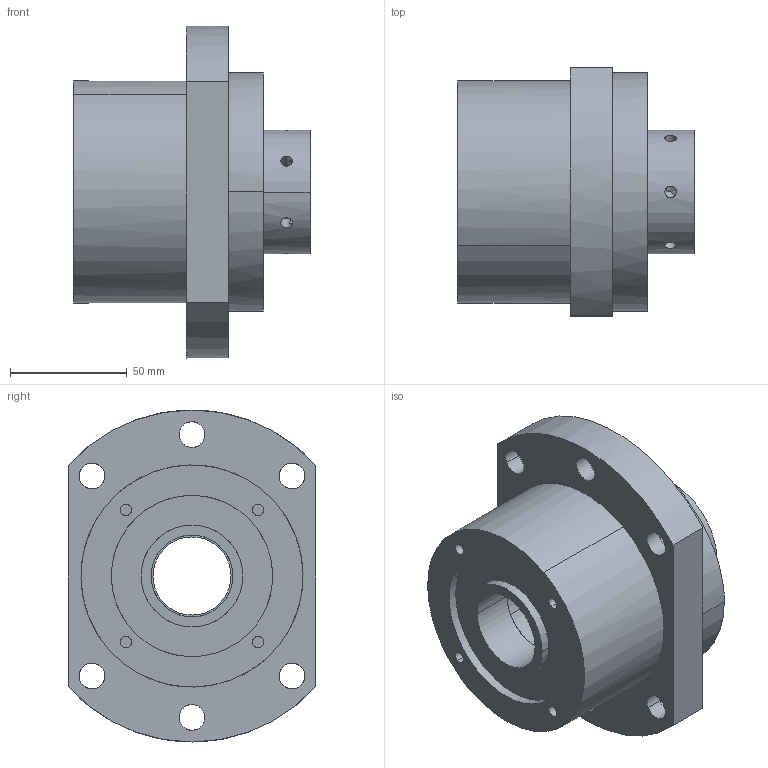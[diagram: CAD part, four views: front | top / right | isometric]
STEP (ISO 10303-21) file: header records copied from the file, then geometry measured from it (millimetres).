
FILE_DESCRIPTION(('CATIA V5 STEP Exchange'),'2;1');
FILE_NAME('D:\서포트 완성도면\WBK\WBK35DFD.stp','2014-03-26T10:22:35+00:00',('none'),('none'),'CATIA Version 5 Release 18 GA (IN-10)','CATIA V5 STEP AP203','none');
FILE_SCHEMA(('CONFIG_CONTROL_DESIGN'));
Length unit declared in the file: millimetre
Products named in the file (1): WBK35DFD
Assembly tree (4 placements, depth 2):
  WBK35DFD
    #56
    #3785  x2
    #4061
Bounding box: 101 x 106 x 142 mm (x, y, z)
Volume: 613193.6 mm3; surface area: 88156.2 mm2
Topology: 4 solids, 4 shells, 146 faces, 361 edges, 231 vertices
Faces by surface type: cylinder 92, plane 30, cone 24
Entity records: 6378 total; most frequent: CARTESIAN_POINT 3307, ORIENTED_EDGE 674, DIRECTION 443, EDGE_CURVE 337, VERTEX_POINT 223, AXIS2_PLACEMENT_3D 193, EDGE_LOOP 190, B_SPLINE_CURVE_WITH_KNOTS 168
